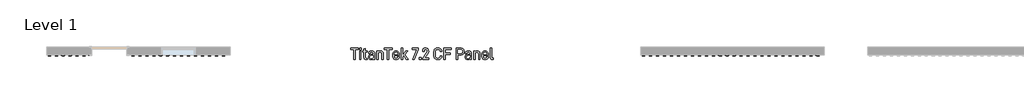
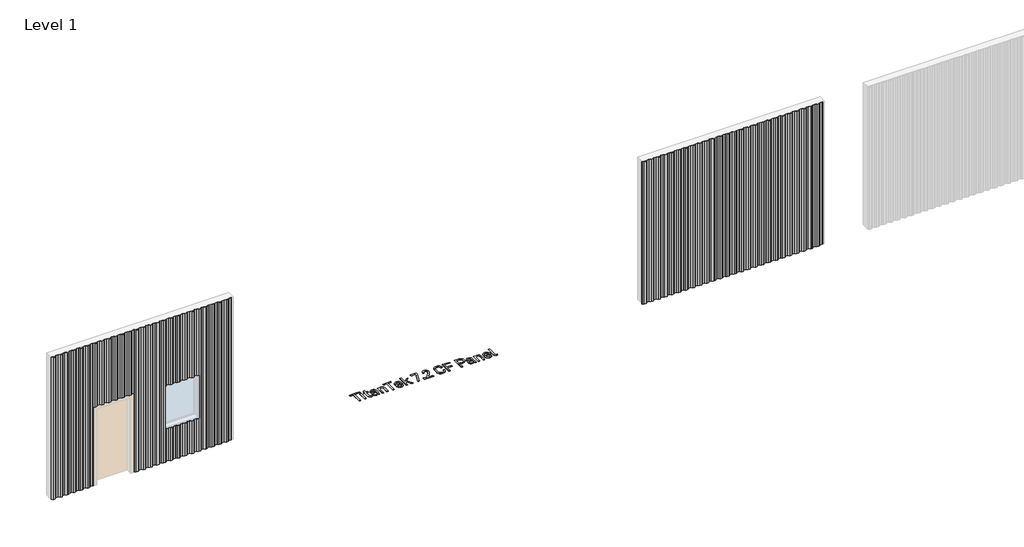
# One storey, part 10 of 33: 3 proxies.
"""IFC4 building model written with IfcOpenShell, lengths in millimetres."""

from ifc_helpers import new_model, si_unit, frame, origin, origin_with_axes, place, context, project, spatial, polyline, outline, extrude, faceted_brep, transform, mapped, element, save
from components import titantek_7_2_cf_panel_aluminum_slate_gray_eb07de06

model = new_model("IFC4")

# Units and contexts
model_context = context("Model", 3, world=origin())
ifc_project = project(units=[si_unit("LENGTHUNIT", "METRE", prefix="MILLI")], contexts=[model_context])

# Site, building, storey
site = spatial("IfcSite", under=ifc_project)
building = spatial("IfcBuilding", under=site)
storey = spatial("IfcBuildingStorey", under=building, Name="Level 1", Elevation=0.0)

# Proxies
placement = place(None, origin())
element("IfcBuildingElementProxy", 1, Name="600mm Arial 2", ObjectType="600mm Arial 2", at=placement, inside=storey, context=model_context, shape_type="SweptSolid", body=[
    extrude(outline(polyline([(-9914.9924556, 2220.4128343), (-9914.9924556, 1952.9873502), (-9954.4439015, 1952.9873502), (-9954.4439015, 2220.4128343), (-10038.8787304, 2220.4128343), (-10038.8787304, 2257.3166776), (-9830.5576267, 2257.3166776), (-9830.5576267, 2220.4128343), (-9914.9924556, 2220.4128343)])), origin_with_axes(), (0.0, 0.0, 1.0), 5.0),
    extrude(outline(polyline([(-9763.1553408, 2253.0221475), (-9763.1553408, 2205.8551051), (-9802.6067867, 2205.8551051), (-9802.6067867, 2253.0221475), (-9763.1553408, 2253.0221475)])), origin_with_axes(), (0.0, 0.0, 1.0), 5.0),
    extrude(outline(polyline([(-9764.0288046, 2178.8505176), (-9764.0288046, 1952.9873502), (-9801.733323, 1952.9873502), (-9801.733323, 2178.8505176), (-9764.0288046, 2178.8505176)])), origin_with_axes(), (0.0, 0.0, 1.0), 5.0),
    extrude(outline(polyline([(-9648.294858, 2012.601251), (-9646.8208879, 2001.5191797), (-9642.3989777, 1993.6034145), (-9635.0291273, 1988.8539554), (-9624.7113368, 1987.2708023), (-9603.2386864, 1987.2708023), (-9603.2386864, 1952.9873502), (-9629.3698101, 1952.9873502), (-9653.1535001, 1956.9543314), (-9671.3688587, 1968.855275), (-9682.6692959, 1987.3981825), (-9686.4361083, 2011.2910554), (-9686.4361083, 2147.1146681), (-9720.2828285, 2147.1146681), (-9720.2828285, 2178.8505176), (-9686.4361083, 2178.8505176), (-9686.4361083, 2226.8910237), (-9648.294858, 2244.8698192), (-9648.294858, 2178.8505176), (-9599.3808881, 2178.8505176), (-9599.3808881, 2147.1146681), (-9648.294858, 2147.1146681), (-9648.294858, 2012.601251)])), origin_with_axes(), (0.0, 0.0, 1.0), 5.0),
    extrude(outline(polyline([(-9422.8684225, 2162.1091291), (-9413.2830677, 2151.3409589), (-9406.4363858, 2138.2526505), (-9400.9590402, 2105.1156196), (-9400.9590402, 1952.9873502), (-9438.2996154, 1952.9873502), (-9438.2996154, 1969.2920069), (-9456.7151427, 1956.8451485), (-9473.7476858, 1952.0410978), (-9493.9829293, 1950.4397476), (-9526.0281305, 1954.7160806), (-9550.1029751, 1967.5450794), (-9565.2248162, 1989.3270816), (-9570.2654299, 2018.5699199), (-9565.1338304, 2046.2114081), (-9549.7390318, 2067.4111012), (-9525.063681, 2080.6222403), (-9493.1094655, 2085.0259534), (-9438.7363472, 2085.0259534), (-9438.7363472, 2105.5523515), (-9441.6296959, 2124.441005), (-9450.3097419, 2138.1616647), (-9464.2305704, 2146.1866129), (-9483.7197302, 2148.8615956), (-9502.2262434, 2146.6051476), (-9515.819523, 2139.8358036), (-9524.1720201, 2129.4816187), (-9526.9561857, 2115.4516073), (-9526.9561857, 2109.8468816), (-9563.8600291, 2109.8468816), (-9563.8600291, 2116.2522824), (-9558.4008807, 2143.2932642), (-9542.0234354, 2164.2927885), (-9516.8203668, 2177.4493362), (-9484.1564621, 2181.8348521), (-9448.6719974, 2176.9034213), (-9434.5600987, 2170.7391329), (-9422.8684225, 2162.1091291)]), holes=[polyline([(-9450.6736851, 1994.5496669), (-9441.7206817, 2009.4531421), (-9438.7363472, 2031.0167784), (-9438.7363472, 2054.9642428), (-9488.8149354, 2054.9642428), (-9507.9538, 2052.7168933), (-9521.6244175, 2045.974845), (-9529.826788, 2034.7380979), (-9532.5609115, 2019.0066518), (-9529.8540837, 2003.0522906), (-9521.7336004, 1991.6563182), (-9508.1994616, 1984.8187348), (-9489.2516673, 1982.5395404), (-9466.104878, 1985.542072), (-9450.6736851, 1994.5496669)])]), origin_with_axes(), (0.0, 0.0, 1.0), 5.0),
    extrude(outline(polyline([(-9306.6977441, 2178.8505176), (-9306.6977441, 2160.4349903), (-9288.2822167, 2173.6825238), (-9271.1222935, 2179.4692211), (-9252.2518372, 2181.3981202), (-9219.9154813, 2175.9389718), (-9206.7907787, 2169.1150363), (-9195.6950595, 2159.5615265), (-9187.0650557, 2147.9790333), (-9180.9007673, 2134.1946835), (-9175.9693365, 2100.0204144), (-9175.9693365, 1952.9873502), (-9213.673855, 1952.9873502), (-9213.673855, 2095.7258843), (-9216.6763866, 2118.1083928), (-9225.6839815, 2133.8671346), (-9240.3781893, 2143.4752358), (-9259.567096, 2146.6779363), (-9278.7378056, 2143.4752358), (-9293.3774219, 2133.8671346), (-9303.0401146, 2117.453295), (-9306.2610122, 2095.7258843), (-9306.2610122, 1952.9873502), (-9343.9655306, 1952.9873502), (-9343.9655306, 2178.8505176), (-9306.6977441, 2178.8505176)])), origin_with_axes(), (0.0, 0.0, 1.0), 5.0),
    extrude(outline(polyline([(-9025.2240514, 2220.4128343), (-9025.2240514, 1952.9873502), (-9064.6754974, 1952.9873502), (-9064.6754974, 2220.4128343), (-9149.1103263, 2220.4128343), (-9149.1103263, 2257.3166776), (-8940.7892225, 2257.3166776), (-8940.7892225, 2220.4128343), (-9025.2240514, 2220.4128343)])), origin_with_axes(), (0.0, 0.0, 1.0), 5.0),
    extrude(outline(polyline([(-8884.5235994, 2047.2486463), (-8881.1025331, 2017.8329349), (-8870.8393341, 1998.8805913), (-8854.3527058, 1988.5900965), (-8832.2613519, 1985.1599316), (-8812.990558, 1987.7257314), (-8798.8513635, 1995.4231306), (-8790.1713175, 2007.1966941), (-8787.2779689, 2022.86445), (-8787.2779689, 2028.3963871), (-8750.3741256, 2028.3963871), (-8750.3741256, 2021.9909863), (-8756.0516399, 1992.8391337), (-8763.1485329, 1980.528754), (-8773.084183, 1969.7287387), (-8799.7976159, 1955.2619954), (-8834.3722226, 1950.4397476), (-8853.3222916, 1951.9387388), (-8870.2843206, 1956.4357123), (-8885.2583098, 1963.9306682), (-8898.2442591, 1974.4236064), (-8908.7371973, 1988.0237099), (-8916.2321532, 2004.8401617), (-8920.7291267, 2024.8729617), (-8922.2281179, 2048.1221101), (-8922.2281179, 2085.8266285), (-8920.7314014, 2108.5321367), (-8916.2412518, 2128.1714231), (-8908.7576691, 2144.7444879), (-8898.2806535, 2158.2513309), (-8885.4971476, 2168.5691214), (-8870.7301511, 2175.9389718), (-8853.979664, 2180.360882), (-8835.2456864, 2181.8348521), (-8816.8438069, 2180.360882), (-8800.2161506, 2175.9389718), (-8785.3627176, 2168.5691214), (-8772.2835079, 2158.2513309), (-8761.9657174, 2144.9082623), (-8754.595867, 2128.389789), (-8750.1739568, 2108.6959111), (-8748.6999867, 2085.8266285), (-8748.6999867, 2055.8377065), (-8884.5235994, 2055.8377065), (-8884.5235994, 2047.2486463)]), holes=[polyline([(-8871.2760659, 2133.4304027), (-8881.2117161, 2115.30603), (-8884.5235994, 2086.7000923), (-8786.4045051, 2086.2633604), (-8786.4045051, 2089.6844267), (-8789.6254027, 2116.9255774), (-8799.2880954, 2134.3038665), (-8814.9012599, 2143.5844188), (-8835.2456864, 2146.6779363), (-8855.60831, 2143.3660529), (-8871.2760659, 2133.4304027)])]), origin_with_axes(), (0.0, 0.0, 1.0), 5.0),
    extrude(outline(polyline([(-8663.391694, 2020.3168474), (-8663.391694, 1952.9873502), (-8701.0962125, 1952.9873502), (-8701.0962125, 2257.3166776), (-8663.391694, 2257.3166776), (-8663.391694, 2070.8321675), (-8575.0990669, 2178.8505176), (-8528.3687564, 2178.8505176), (-8602.5403863, 2091.8680861), (-8517.6688255, 1952.9873502), (-8563.5256722, 1952.9873502), (-8627.7980463, 2062.6798392), (-8663.391694, 2020.3168474)])), origin_with_axes(), (0.0, 0.0, 1.0), 5.0),
    extrude(outline(polyline([(-8254.3195056, 2223.8339006), (-8352.001868, 1952.9873502), (-8392.3267777, 1952.9873502), (-8294.5716266, 2220.4128343), (-8413.2899076, 2220.4128343), (-8413.2899076, 2257.3166776), (-8254.3195056, 2257.3166776), (-8254.3195056, 2223.8339006)])), origin_with_axes(), (0.0, 0.0, 1.0), 5.0),
    extrude(outline(polyline([(-8175.1254592, 2001.0278564), (-8175.1254592, 1952.9873502), (-8221.4190378, 1952.9873502), (-8221.4190378, 2001.0278564), (-8175.1254592, 2001.0278564)])), origin_with_axes(), (0.0, 0.0, 1.0), 5.0),
    extrude(outline(polyline([(-8034.7161617, 2127.4617338), (-8021.1774737, 2153.2471115), (-8016.6645776, 2176.7396469), (-8016.6645776, 2183.1450477), (-8019.3577575, 2200.9418716), (-8027.4372972, 2214.0074335), (-8040.2844931, 2222.3599305), (-8056.5527554, 2225.1440962), (-8072.9302007, 2222.4691135), (-8085.2314818, 2214.4441653), (-8092.9834726, 2200.6143227), (-8095.5674695, 2181.3981202), (-8095.5674695, 2169.4607823), (-8134.9461268, 2169.4607823), (-8134.9461268, 2183.1450477), (-8129.5961613, 2214.7535171), (-8113.546265, 2240.1385572), (-8087.9428589, 2256.1884536), (-8055.6792917, 2261.5384191), (-8033.4969519, 2258.9726193), (-8014.116975, 2251.27522), (-7998.1580645, 2239.3924736), (-7986.2389238, 2223.3971687), (-7978.8690734, 2204.9998386), (-7976.4124566, 2184.0185115), (-7976.4124566, 2176.7396469), (-7978.1229898, 2158.0875565), (-7983.2545893, 2140.7092673), (-8002.9803122, 2105.9890833), (-8083.9940748, 1989.4544617), (-7976.4124566, 1989.4544617), (-7976.4124566, 1952.9873502), (-8134.9461268, 1952.9873502), (-8134.9461268, 1983.849736), (-8034.7161617, 2127.4617338)])), origin_with_axes(), (0.0, 0.0, 1.0), 5.0),
    extrude(outline(polyline([(-7808.925783, 1977.881067), (-7821.8548662, 1994.3676953), (-7831.0899256, 2014.7121217), (-7836.6309612, 2038.9143464), (-7838.4779731, 2066.9743693), (-7838.4779731, 2143.6936018), (-7836.6309612, 2171.9219484), (-7831.0899256, 2196.1924124), (-7821.8548662, 2216.5049939), (-7808.925783, 2232.8596927), (-7792.9168303, 2245.2474103), (-7774.4421621, 2254.09578), (-7753.5017786, 2259.4048019), (-7730.0956798, 2261.1744758), (-7700.7254613, 2258.2811272), (-7675.213041, 2249.6010812), (-7654.1043338, 2235.4436896), (-7637.9452544, 2216.1183042), (-7628.2825617, 2192.7713461), (-7625.0616641, 2166.4036592), (-7625.0616641, 2160.8717222), (-7664.949842, 2160.8717222), (-7664.949842, 2166.4036592), (-7669.2261749, 2190.2965321), (-7682.0551737, 2208.8394396), (-7702.8727263, 2220.4128343), (-7730.0956798, 2224.2706325), (-7759.5477855, 2219.5575677), (-7781.0841261, 2205.4183733), (-7788.7747014, 2194.4136399), (-7794.2679695, 2180.251699), (-7798.662584, 2142.4561948), (-7798.662584, 2065.3002304), (-7794.3498567, 2030.9712854), (-7781.411675, 2006.4506105), (-7771.7080386, 1997.8683742), (-7759.8480387, 1991.7382055), (-7729.6589479, 1986.8340705), (-7702.3268115, 1990.6918687), (-7682.0551737, 2002.2652633), (-7669.2261749, 2020.4806219), (-7664.949842, 2044.2643119), (-7664.949842, 2050.3057694), (-7625.9351279, 2050.3057694), (-7625.9351279, 2044.2643119), (-7627.7002526, 2023.4103649), (-7632.9956265, 2004.9584432), (-7641.8212498, 1988.9085469), (-7654.1771224, 1975.2606758), (-7669.5400759, 1964.0193793), (-7687.3141533, 1955.9898819), (-7707.4993546, 1951.1721834), (-7730.0956798, 1949.5662839), (-7753.5017786, 1951.3359578), (-7774.4421621, 1956.6449797), (-7792.9168303, 1965.4933494), (-7808.925783, 1977.881067)])), origin_with_axes(), (0.0, 0.0, 1.0), 5.0),
    extrude(outline(polyline([(-7531.7466205, 2125.2780744), (-7404.8760111, 2125.2780744), (-7404.8760111, 2088.4470198), (-7531.7466205, 2088.4470198), (-7531.7466205, 1952.9873502), (-7571.6347983, 1952.9873502), (-7571.6347983, 2257.3166776), (-7383.4761493, 2257.3166776), (-7383.4761493, 2220.4128343), (-7531.7466205, 2220.4128343), (-7531.7466205, 2125.2780744)])), origin_with_axes(), (0.0, 0.0, 1.0), 5.0),
    extrude(outline(polyline([(-7063.7884177, 2233.2964245), (-7052.3560511, 2219.8396237), (-7044.1900749, 2203.926206), (-7039.2904892, 2185.5561716), (-7037.6572939, 2164.7295204), (-7039.3177849, 2145.044741), (-7044.2992578, 2127.5527196), (-7052.6017127, 2112.2534562), (-7064.2251496, 2099.1469507), (-7078.2824568, 2088.6380899), (-7094.7599864, 2081.1317609), (-7113.6577386, 2076.6279634), (-7134.9757131, 2075.1266976), (-7205.653488, 2075.1266976), (-7205.653488, 1952.9873502), (-7245.5416658, 1952.9873502), (-7245.5416658, 2257.3166776), (-7134.9757131, 2257.3166776), (-7113.7942173, 2255.8154118), (-7094.8691694, 2251.3116143), (-7078.2005696, 2243.8052853), (-7063.7884177, 2233.2964245)]), holes=[polyline([(-7092.5399327, 2125.2780744), (-7081.294087, 2141.5827311), (-7077.5454717, 2164.7295204), (-7081.40327, 2189.3502798), (-7092.9766646, 2206.7285689), (-7112.0472898, 2216.9917679), (-7137.5233157, 2220.4128343), (-7205.653488, 2220.4128343), (-7205.653488, 2112.0305409), (-7137.5233157, 2112.0305409), (-7111.283009, 2115.3424243), (-7092.5399327, 2125.2780744)])]), origin_with_axes(), (0.0, 0.0, 1.0), 5.0),
    extrude(outline(polyline([(-6865.3665697, 2162.1091291), (-6855.781215, 2151.3409589), (-6848.934533, 2138.2526505), (-6843.4571874, 2105.1156196), (-6843.4571874, 1952.9873502), (-6880.7977626, 1952.9873502), (-6880.7977626, 1969.2920069), (-6899.21329, 1956.8451485), (-6916.245833, 1952.0410978), (-6936.4810765, 1950.4397476), (-6968.5262778, 1954.7160806), (-6992.6011223, 1967.5450794), (-7007.7229634, 1989.3270816), (-7012.7635771, 2018.5699199), (-7007.6319776, 2046.2114081), (-6992.2371791, 2067.4111012), (-6967.5618282, 2080.6222403), (-6935.6076128, 2085.0259534), (-6881.2344945, 2085.0259534), (-6881.2344945, 2105.5523515), (-6884.1278431, 2124.441005), (-6892.8078891, 2138.1616647), (-6906.7287176, 2146.1866129), (-6926.2178775, 2148.8615956), (-6944.7243906, 2146.6051476), (-6958.3176702, 2139.8358036), (-6966.6701673, 2129.4816187), (-6969.454333, 2115.4516073), (-6969.454333, 2109.8468816), (-7006.3581763, 2109.8468816), (-7006.3581763, 2116.2522824), (-7000.8990279, 2143.2932642), (-6984.5215826, 2164.2927885), (-6959.3185141, 2177.4493362), (-6926.6546094, 2181.8348521), (-6891.1701446, 2176.9034213), (-6877.0582459, 2170.7391329), (-6865.3665697, 2162.1091291)]), holes=[polyline([(-6893.1718324, 1994.5496669), (-6884.218829, 2009.4531421), (-6881.2344945, 2031.0167784), (-6881.2344945, 2054.9642428), (-6931.3130827, 2054.9642428), (-6950.4519472, 2052.7168933), (-6964.1225647, 2045.974845), (-6972.3249352, 2034.7380979), (-6975.0590587, 2019.0066518), (-6972.3522309, 2003.0522906), (-6964.2317477, 1991.6563182), (-6950.6976089, 1984.8187348), (-6931.7498145, 1982.5395404), (-6908.6030252, 1985.542072), (-6893.1718324, 1994.5496669)])]), origin_with_axes(), (0.0, 0.0, 1.0), 5.0),
    extrude(outline(polyline([(-6749.1958913, 2178.8505176), (-6749.1958913, 2160.4349903), (-6730.780364, 2173.6825238), (-6713.6204408, 2179.4692211), (-6694.7499844, 2181.3981202), (-6662.4136286, 2175.9389718), (-6649.2889259, 2169.1150363), (-6638.1932067, 2159.5615265), (-6629.5632029, 2147.9790333), (-6623.3989145, 2134.1946835), (-6618.4674838, 2100.0204144), (-6618.4674838, 1952.9873502), (-6656.1720022, 1952.9873502), (-6656.1720022, 2095.7258843), (-6659.1745338, 2118.1083928), (-6668.1821287, 2133.8671346), (-6682.8763366, 2143.4752358), (-6702.0652433, 2146.6779363), (-6721.2359528, 2143.4752358), (-6735.8755692, 2133.8671346), (-6745.5382619, 2117.453295), (-6748.7591594, 2095.7258843), (-6748.7591594, 1952.9873502), (-6786.4636779, 1952.9873502), (-6786.4636779, 2178.8505176), (-6749.1958913, 2178.8505176)])), origin_with_axes(), (0.0, 0.0, 1.0), 5.0),
    extrude(outline(polyline([(-6531.9945728, 2047.2486463), (-6528.5735064, 2017.8329349), (-6518.3103074, 1998.8805913), (-6501.8236791, 1988.5900965), (-6479.7323252, 1985.1599316), (-6460.4615313, 1987.7257314), (-6446.3223369, 1995.4231306), (-6437.6422909, 2007.1966941), (-6434.7489422, 2022.86445), (-6434.7489422, 2028.3963871), (-6397.8450989, 2028.3963871), (-6397.8450989, 2021.9909863), (-6403.5226132, 1992.8391337), (-6410.6195062, 1980.528754), (-6420.5551563, 1969.7287387), (-6447.2685893, 1955.2619954), (-6481.8431959, 1950.4397476), (-6500.7932649, 1951.9387388), (-6517.755294, 1956.4357123), (-6532.7292832, 1963.9306682), (-6545.7152325, 1974.4236064), (-6556.2081707, 1988.0237099), (-6563.7031265, 2004.8401617), (-6568.2001, 2024.8729617), (-6569.6990912, 2048.1221101), (-6569.6990912, 2085.8266285), (-6568.2023747, 2108.5321367), (-6563.7122251, 2128.1714231), (-6556.2286425, 2144.7444879), (-6545.7516268, 2158.2513309), (-6532.9681209, 2168.5691214), (-6518.2011244, 2175.9389718), (-6501.4506373, 2180.360882), (-6482.7166597, 2181.8348521), (-6464.3147802, 2180.360882), (-6447.687124, 2175.9389718), (-6432.833691, 2168.5691214), (-6419.7544812, 2158.2513309), (-6409.4366907, 2144.9082623), (-6402.0668403, 2128.389789), (-6397.6449301, 2108.6959111), (-6396.17096, 2085.8266285), (-6396.17096, 2055.8377065), (-6531.9945728, 2055.8377065), (-6531.9945728, 2047.2486463)]), holes=[polyline([(-6518.7470393, 2133.4304027), (-6528.6826894, 2115.30603), (-6531.9945728, 2086.7000923), (-6433.8754785, 2086.2633604), (-6433.8754785, 2089.6844267), (-6437.096376, 2116.9255774), (-6446.7590687, 2134.3038665), (-6462.3722332, 2143.5844188), (-6482.7166597, 2146.6779363), (-6503.0792833, 2143.3660529), (-6518.7470393, 2133.4304027)])]), origin_with_axes(), (0.0, 0.0, 1.0), 5.0),
    extrude(outline(polyline([(-6333.5727248, 1968.855275), (-6344.8185705, 1988.362632), (-6348.5671858, 2014.2753899), (-6348.5671858, 2257.3166776), (-6310.8626673, 2257.3166776), (-6310.8626673, 2016.0223174), (-6309.4796831, 2002.6110094), (-6305.3307303, 1994.112935), (-6298.3430203, 1989.6364333), (-6287.715878, 1988.1442661), (-6265.8792843, 1988.1442661), (-6265.8792843, 1952.9873502), (-6290.7002125, 1952.9873502), (-6315.5757322, 1956.9543314), (-6333.5727248, 1968.855275)])), origin_with_axes(), (0.0, 0.0, 1.0), 5.0),
])
titantek_7_2_cf_panel_aluminum_slate_gray_shape = titantek_7_2_cf_panel_aluminum_slate_gray_eb07de06(model_context)
element("IfcBuildingElementProxy", 2, Name="TitanTek 7.2 CF Panel : Aluminum Slate Gray", ObjectType="TitanTek 7.2 CF Panel : Aluminum Slate Gray", at=placement, inside=storey, context=model_context, shape_type="MappedRepresentation", body=[
    mapped(titantek_7_2_cf_panel_aluminum_slate_gray_shape, transform((-2360.5897817, 2078.6095025, 0.0), x_axis=(1.0, 0.0, 0.0), y_axis=(0.0, 1.0, 0.0), z_axis=(0.0, 0.0, 1.0))),
])
element("IfcBuildingElementProxy", 3, Name="TitanTek 7.2 CF Panel : Steel Regal Red", ObjectType="TitanTek 7.2 CF Panel : Steel Regal Red", at=placement, inside=storey, context=model_context, shape_type="SolidModel", body=[
    extrude(outline(polyline([(-17709.0564045, 2078.6095025), (-17701.5857463, 2072.340876), (-17703.129316, 2072.340876), (-17709.4175312, 2077.617315), (-17760.6895339, 2077.617315), (-17800.7638066, 2043.708315), (-17854.7011195, 2043.708315), (-17894.938795, 2077.617315), (-17945.013031, 2077.617315), (-17986.259889, 2042.7161275), (-18037.6674853, 2042.7161275), (-18079.2611009, 2077.617315), (-18077.7175312, 2077.617315), (-18037.3063586, 2043.708315), (-17986.623335, 2043.708315), (-17945.3764771, 2078.6095025), (-17894.5764771, 2078.6095025), (-17854.3388016, 2044.7005025), (-17801.1272527, 2044.7005025), (-17761.05298, 2078.6095025), (-17709.0564045, 2078.6095025)])), origin_with_axes(), (0.0, 0.0, 1.0), 4000.0),
    extrude(outline(polyline([(-17340.7564045, 2078.6095025), (-17333.2857463, 2072.340876), (-17334.829316, 2072.340876), (-17341.1175312, 2077.617315), (-17392.3895339, 2077.617315), (-17432.4638066, 2043.708315), (-17486.4011195, 2043.708315), (-17526.638795, 2077.617315), (-17576.713031, 2077.617315), (-17617.959889, 2042.7161275), (-17669.3674853, 2042.7161275), (-17710.9611009, 2077.617315), (-17709.4175312, 2077.617315), (-17669.0063586, 2043.708315), (-17618.323335, 2043.708315), (-17577.0764771, 2078.6095025), (-17526.2764771, 2078.6095025), (-17486.0388016, 2044.7005025), (-17432.8272527, 2044.7005025), (-17392.75298, 2078.6095025), (-17340.7564045, 2078.6095025)])), origin_with_axes(), (0.0, 0.0, 1.0), 4000.0),
    extrude(outline(polyline([(-16972.4564045, 2078.6095025), (-16964.9857463, 2072.340876), (-16966.529316, 2072.340876), (-16972.8175312, 2077.617315), (-17024.0895339, 2077.617315), (-17064.1638066, 2043.708315), (-17118.1011195, 2043.708315), (-17158.338795, 2077.617315), (-17208.413031, 2077.617315), (-17249.659889, 2042.7161275), (-17301.0674853, 2042.7161275), (-17342.6611009, 2077.617315), (-17341.1175312, 2077.617315), (-17300.7063586, 2043.708315), (-17250.023335, 2043.708315), (-17208.7764771, 2078.6095025), (-17157.9764771, 2078.6095025), (-17117.7388016, 2044.7005025), (-17064.5272527, 2044.7005025), (-17024.45298, 2078.6095025), (-16972.4564045, 2078.6095025)])), origin_with_axes(), (0.0, 0.0, 1.0), 4000.0),
    faceted_brep([(-16932.7674853, 2042.7161275, 4000.0), (-16974.3611009, 2077.617315, 4000.0), (-16974.3611009, 2077.617315, 0.0), (-16953.5272757, 2060.1356599, 0.0), (-16953.5272757, 2060.1356599, 2210.0), (-16932.7674853, 2042.7161275, 2210.0), (-16881.359889, 2042.7161275, 4000.0), (-16881.359889, 2042.7161275, 2210.0), (-16840.113031, 2077.617315, 4000.0), (-16840.113031, 2077.617315, 2210.0), (-16790.038795, 2077.617315, 4000.0), (-16790.038795, 2077.617315, 2210.0), (-16749.8011195, 2043.708315, 4000.0), (-16749.8011195, 2043.708315, 2210.0), (-16695.8638066, 2043.708315, 4000.0), (-16695.8638066, 2043.708315, 2210.0), (-16655.7895339, 2077.617315, 4000.0), (-16655.7895339, 2077.617315, 2210.0), (-16604.5175312, 2077.617315, 4000.0), (-16604.5175312, 2077.617315, 2210.0), (-16596.6857463, 2072.340876, 4000.0), (-16598.229316, 2072.340876, 4000.0), (-16598.229316, 2072.340876, 2210.0), (-16596.6857463, 2072.340876, 2210.0), (-16656.15298, 2078.6095025, 4000.0), (-16604.1564045, 2078.6095025, 4000.0), (-16604.1564045, 2078.6095025, 2210.0), (-16656.15298, 2078.6095025, 2210.0), (-16696.2272527, 2044.7005025, 4000.0), (-16696.2272527, 2044.7005025, 2210.0), (-16749.4388016, 2044.7005025, 4000.0), (-16749.4388016, 2044.7005025, 2210.0), (-16789.6764771, 2078.6095025, 4000.0), (-16840.4764771, 2078.6095025, 4000.0), (-16881.723335, 2043.708315, 4000.0), (-16932.4063586, 2043.708315, 4000.0), (-16972.8175312, 2077.617315, 4000.0), (-16972.8175312, 2077.617315, 0.0), (-16953.5272757, 2061.4308687, 0.0), (-16789.6764771, 2078.6095025, 2210.0), (-16840.4764771, 2078.6095025, 2210.0), (-16881.723335, 2043.708315, 2210.0), (-16932.4063586, 2043.708315, 2210.0), (-16953.5272757, 2061.4308687, 2210.0)], [[[0, 1, 2, 3, 4, 5]], [[6, 0, 5, 7]], [[8, 6, 7, 9]], [[10, 8, 9, 11]], [[12, 10, 11, 13]], [[14, 12, 13, 15]], [[16, 14, 15, 17]], [[18, 16, 17, 19]], [[20, 21, 22, 23]], [[24, 25, 26, 27]], [[28, 24, 27, 29]], [[30, 28, 29, 31]], [[25, 24, 28, 30, 32, 33, 34, 35, 36, 1, 0, 6, 8, 10, 12, 14, 16, 18, 21, 20]], [[2, 37, 38, 3]], [[32, 30, 31, 39]], [[33, 32, 39, 40]], [[34, 33, 40, 41]], [[35, 34, 41, 42]], [[36, 35, 42, 43, 38, 37]], [[21, 18, 19, 22]], [[25, 20, 23, 26]], [[1, 36, 37, 2]], [[4, 43, 42, 41, 40, 39, 31, 29, 27, 26, 23, 22, 19, 17, 15, 13, 11, 9, 7, 5]], [[43, 4, 3, 38]]]),
    extrude(outline(polyline([(-16564.4674853, 2042.7161275), (-16606.0611009, 2077.617315), (-16604.5175312, 2077.617315), (-16564.1063586, 2043.708315), (-16513.423335, 2043.708315), (-16472.1764771, 2078.6095025), (-16421.3764771, 2078.6095025), (-16381.1388016, 2044.7005025), (-16327.9272527, 2044.7005025), (-16287.85298, 2078.6095025), (-16235.8564045, 2078.6095025), (-16228.3857463, 2072.340876), (-16229.929316, 2072.340876), (-16236.2175312, 2077.617315), (-16287.4895339, 2077.617315), (-16327.5638066, 2043.708315), (-16381.5011195, 2043.708315), (-16421.738795, 2077.617315), (-16471.813031, 2077.617315), (-16513.059889, 2042.7161275), (-16564.4674853, 2042.7161275)])), frame((0.0, 0.0, 2210.0), z_axis=(0.0, 0.0, 1.0), x_axis=(1.0, 0.0, 0.0)), (0.0, 0.0, 1.0), 1790.0),
    faceted_brep([(-16196.1674853, 2042.7161275, 4000.0), (-16237.7611009, 2077.617315, 4000.0), (-16237.7611009, 2077.617315, 2210.0), (-16196.1674853, 2042.7161275, 2210.0), (-16144.759889, 2042.7161275, 4000.0), (-16144.759889, 2042.7161275, 2210.0), (-16103.513031, 2077.617315, 4000.0), (-16103.513031, 2077.617315, 2210.0), (-16053.438795, 2077.617315, 4000.0), (-16053.438795, 2077.617315, 2210.0), (-16013.2011195, 2043.708315, 4000.0), (-16013.2011195, 2043.708315, 2210.0), (-15959.2638066, 2043.708315, 4000.0), (-15959.2638066, 2043.708315, 2210.0), (-15919.1895339, 2077.617315, 4000.0), (-15919.1895339, 2077.617315, 2210.0), (-15867.9175312, 2077.617315, 4000.0), (-15886.5272757, 2077.617315, 2210.0), (-15886.5272757, 2077.617315, 0.0), (-15867.9175312, 2077.617315, 0.0), (-15860.0857463, 2072.340876, 4000.0), (-15861.629316, 2072.340876, 4000.0), (-15861.629316, 2072.340876, 0.0), (-15860.0857463, 2072.340876, 0.0), (-15919.55298, 2078.6095025, 4000.0), (-15867.5564045, 2078.6095025, 4000.0), (-15867.5564045, 2078.6095025, 0.0), (-15886.5272757, 2078.6095025, 0.0), (-15886.5272757, 2078.6095025, 2210.0), (-15919.55298, 2078.6095025, 2210.0), (-15959.6272527, 2044.7005025, 4000.0), (-15959.6272527, 2044.7005025, 2210.0), (-16012.8388016, 2044.7005025, 4000.0), (-16012.8388016, 2044.7005025, 2210.0), (-16053.0764771, 2078.6095025, 4000.0), (-16103.8764771, 2078.6095025, 4000.0), (-16145.123335, 2043.708315, 4000.0), (-16195.8063586, 2043.708315, 4000.0), (-16236.2175312, 2077.617315, 4000.0), (-16053.0764771, 2078.6095025, 2210.0), (-16103.8764771, 2078.6095025, 2210.0), (-16145.123335, 2043.708315, 2210.0), (-16195.8063586, 2043.708315, 2210.0), (-16236.2175312, 2077.617315, 2210.0)], [[[0, 1, 2, 3]], [[4, 0, 3, 5]], [[6, 4, 5, 7]], [[8, 6, 7, 9]], [[10, 8, 9, 11]], [[12, 10, 11, 13]], [[14, 12, 13, 15]], [[16, 14, 15, 17, 18, 19]], [[20, 21, 22, 23]], [[24, 25, 26, 27, 28, 29]], [[30, 24, 29, 31]], [[32, 30, 31, 33]], [[25, 24, 30, 32, 34, 35, 36, 37, 38, 1, 0, 4, 6, 8, 10, 12, 14, 16, 21, 20]], [[26, 23, 22, 19, 18, 27]], [[34, 32, 33, 39]], [[35, 34, 39, 40]], [[36, 35, 40, 41]], [[37, 36, 41, 42]], [[38, 37, 42, 43]], [[21, 16, 19, 22]], [[25, 20, 23, 26]], [[1, 38, 43, 2]], [[17, 28, 27, 18]], [[28, 17, 15, 13, 11, 9, 7, 5, 3, 2, 43, 42, 41, 40, 39, 33, 31, 29]]]),
    extrude(outline(polyline([(-15499.2564045, 2078.6095025), (-15491.7857463, 2072.340876), (-15493.329316, 2072.340876), (-15499.6175312, 2077.617315), (-15550.8895339, 2077.617315), (-15590.9638066, 2043.708315), (-15644.9011195, 2043.708315), (-15685.138795, 2077.617315), (-15735.213031, 2077.617315), (-15776.459889, 2042.7161275), (-15827.8674853, 2042.7161275), (-15869.4611009, 2077.617315), (-15867.9175312, 2077.617315), (-15827.5063586, 2043.708315), (-15776.823335, 2043.708315), (-15735.5764771, 2078.6095025), (-15684.7764771, 2078.6095025), (-15644.5388016, 2044.7005025), (-15591.3272527, 2044.7005025), (-15551.25298, 2078.6095025), (-15499.2564045, 2078.6095025)])), origin_with_axes(), (0.0, 0.0, 1.0), 4000.0),
    extrude(outline(polyline([(-15130.9564045, 2078.6095025), (-15123.4857463, 2072.340876), (-15125.029316, 2072.340876), (-15131.3175312, 2077.617315), (-15182.5895339, 2077.617315), (-15222.6638066, 2043.708315), (-15276.6011195, 2043.708315), (-15316.838795, 2077.617315), (-15366.913031, 2077.617315), (-15408.159889, 2042.7161275), (-15459.5674853, 2042.7161275), (-15501.1611009, 2077.617315), (-15499.6175312, 2077.617315), (-15459.2063586, 2043.708315), (-15408.523335, 2043.708315), (-15367.2764771, 2078.6095025), (-15316.4764771, 2078.6095025), (-15276.2388016, 2044.7005025), (-15223.0272527, 2044.7005025), (-15182.95298, 2078.6095025), (-15130.9564045, 2078.6095025)])), origin_with_axes(), (0.0, 0.0, 1.0), 4000.0),
    faceted_brep([(-15091.2674853, 2042.7161275, 4000.0), (-15132.8611009, 2077.617315, 4000.0), (-15132.8611009, 2077.617315, 0.0), (-15091.2674853, 2042.7161275, 0.0), (-15039.859889, 2042.7161275, 4000.0), (-15039.859889, 2042.7161275, 0.0), (-15039.859889, 2042.7161275, 915.4292148), (-15052.5272757, 2042.7161275, 915.4292148), (-15052.5272757, 2042.7161275, 2135.0), (-15039.859889, 2042.7161275, 2135.0), (-14998.613031, 2077.617315, 4000.0), (-14998.613031, 2077.617315, 2135.0), (-14998.613031, 2077.617315, 0.0), (-14998.613031, 2077.617315, 915.4292148), (-14948.538795, 2077.617315, 4000.0), (-14948.538795, 2077.617315, 2135.0), (-14948.538795, 2077.617315, 0.0), (-14948.538795, 2077.617315, 915.4292148), (-14908.3011195, 2043.708315, 4000.0), (-14908.3011195, 2043.708315, 2135.0), (-14908.3011195, 2043.708315, 0.0), (-14908.3011195, 2043.708315, 915.4292148), (-14854.3638066, 2043.708315, 4000.0), (-14854.3638066, 2043.708315, 2135.0), (-14854.3638066, 2043.708315, 0.0), (-14854.3638066, 2043.708315, 915.4292148), (-14814.2895339, 2077.617315, 4000.0), (-14814.2895339, 2077.617315, 2135.0), (-14814.2895339, 2077.617315, 0.0), (-14814.2895339, 2077.617315, 915.4292148), (-14763.0175312, 2077.617315, 4000.0), (-14763.0175312, 2077.617315, 2135.0), (-14763.0175312, 2077.617315, 0.0), (-14763.0175312, 2077.617315, 915.4292148), (-14755.1857463, 2072.340876, 4000.0), (-14756.729316, 2072.340876, 4000.0), (-14756.729316, 2072.340876, 2135.0), (-14755.1857463, 2072.340876, 2135.0), (-14756.729316, 2072.340876, 0.0), (-14755.1857463, 2072.340876, 0.0), (-14755.1857463, 2072.340876, 915.4292148), (-14756.729316, 2072.340876, 915.4292148), (-14814.65298, 2078.6095025, 4000.0), (-14762.6564045, 2078.6095025, 4000.0), (-14762.6564045, 2078.6095025, 2135.0), (-14814.65298, 2078.6095025, 2135.0), (-14762.6564045, 2078.6095025, 0.0), (-14814.65298, 2078.6095025, 0.0), (-14814.65298, 2078.6095025, 915.4292148), (-14762.6564045, 2078.6095025, 915.4292148), (-14854.7272527, 2044.7005025, 4000.0), (-14854.7272527, 2044.7005025, 2135.0), (-14854.7272527, 2044.7005025, 0.0), (-14854.7272527, 2044.7005025, 915.4292148), (-14907.9388016, 2044.7005025, 4000.0), (-14907.9388016, 2044.7005025, 2135.0), (-14907.9388016, 2044.7005025, 0.0), (-14907.9388016, 2044.7005025, 915.4292148), (-14948.1764771, 2078.6095025, 4000.0), (-14998.9764771, 2078.6095025, 4000.0), (-15040.223335, 2043.708315, 4000.0), (-15090.9063586, 2043.708315, 4000.0), (-15131.3175312, 2077.617315, 4000.0), (-15131.3175312, 2077.617315, 0.0), (-15090.9063586, 2043.708315, 0.0), (-15040.223335, 2043.708315, 0.0), (-14998.9764771, 2078.6095025, 0.0), (-14948.1764771, 2078.6095025, 0.0), (-14948.1764771, 2078.6095025, 2135.0), (-14948.1764771, 2078.6095025, 915.4292148), (-14998.9764771, 2078.6095025, 915.4292148), (-14998.9764771, 2078.6095025, 2135.0), (-15040.223335, 2043.708315, 2135.0), (-15040.223335, 2043.708315, 915.4292148), (-15052.5272757, 2043.708315, 2135.0), (-15052.5272757, 2043.708315, 915.4292148)], [[[0, 1, 2, 3]], [[4, 0, 3, 5, 6, 7, 8, 9]], [[10, 4, 9, 11]], [[5, 12, 13, 6]], [[14, 10, 11, 15]], [[12, 16, 17, 13]], [[18, 14, 15, 19]], [[16, 20, 21, 17]], [[22, 18, 19, 23]], [[20, 24, 25, 21]], [[26, 22, 23, 27]], [[24, 28, 29, 25]], [[30, 26, 27, 31]], [[28, 32, 33, 29]], [[34, 35, 36, 37]], [[38, 39, 40, 41]], [[42, 43, 44, 45]], [[46, 47, 48, 49]], [[50, 42, 45, 51]], [[47, 52, 53, 48]], [[54, 50, 51, 55]], [[52, 56, 57, 53]], [[43, 42, 50, 54, 58, 59, 60, 61, 62, 1, 0, 4, 10, 14, 18, 22, 26, 30, 35, 34]], [[46, 39, 38, 32, 28, 24, 20, 16, 12, 5, 3, 2, 63, 64, 65, 66, 67, 56, 52, 47]], [[58, 54, 55, 68]], [[56, 67, 69, 57]], [[67, 66, 70, 69]], [[59, 58, 68, 71]], [[60, 59, 71, 72]], [[66, 65, 73, 70]], [[61, 60, 72, 74, 75, 73, 65, 64]], [[62, 61, 64, 63]], [[35, 30, 31, 36]], [[32, 38, 41, 33]], [[43, 34, 37, 44]], [[39, 46, 49, 40]], [[1, 62, 63, 2]], [[8, 74, 72, 71, 68, 55, 51, 45, 44, 37, 36, 31, 27, 23, 19, 15, 11, 9]], [[74, 8, 7, 75]], [[75, 7, 6, 13, 17, 21, 25, 29, 33, 41, 40, 49, 48, 53, 57, 69, 70, 73]]]),
    extrude(outline(polyline([(-14722.9674853, 2042.7161275), (-14764.5611009, 2077.617315), (-14763.0175312, 2077.617315), (-14722.6063586, 2043.708315), (-14671.923335, 2043.708315), (-14630.6764771, 2078.6095025), (-14579.8764771, 2078.6095025), (-14539.6388016, 2044.7005025), (-14486.4272527, 2044.7005025), (-14446.35298, 2078.6095025), (-14394.3564045, 2078.6095025), (-14386.8857463, 2072.340876), (-14388.429316, 2072.340876), (-14394.7175312, 2077.617315), (-14445.9895339, 2077.617315), (-14486.0638066, 2043.708315), (-14540.0011195, 2043.708315), (-14580.238795, 2077.617315), (-14630.313031, 2077.617315), (-14671.559889, 2042.7161275), (-14722.9674853, 2042.7161275)])), frame((0.0, 0.0, 2135.0), z_axis=(0.0, 0.0, 1.0), x_axis=(1.0, 0.0, 0.0)), (0.0, 0.0, 1.0), 1865.0),
    extrude(outline(polyline([(-14394.3564045, 2078.6095025), (-14386.8857463, 2072.340876), (-14388.429316, 2072.340876), (-14394.7175312, 2077.617315), (-14445.9895339, 2077.617315), (-14486.0638066, 2043.708315), (-14540.0011195, 2043.708315), (-14580.238795, 2077.617315), (-14630.313031, 2077.617315), (-14671.559889, 2042.7161275), (-14722.9674853, 2042.7161275), (-14764.5611009, 2077.617315), (-14763.0175312, 2077.617315), (-14722.6063586, 2043.708315), (-14671.923335, 2043.708315), (-14630.6764771, 2078.6095025), (-14579.8764771, 2078.6095025), (-14539.6388016, 2044.7005025), (-14486.4272527, 2044.7005025), (-14446.35298, 2078.6095025), (-14394.3564045, 2078.6095025)])), origin_with_axes(), (0.0, 0.0, 1.0), 915.4292148),
    faceted_brep([(-14354.6674853, 2042.7161275, 4000.0), (-14396.2611009, 2077.617315, 4000.0), (-14396.2611009, 2077.617315, 2135.0), (-14354.6674853, 2042.7161275, 2135.0), (-14396.2611009, 2077.617315, 0.0), (-14354.6674853, 2042.7161275, 0.0), (-14354.6674853, 2042.7161275, 915.4292148), (-14396.2611009, 2077.617315, 915.4292148), (-14303.259889, 2042.7161275, 4000.0), (-14303.259889, 2042.7161275, 2135.0), (-14303.259889, 2042.7161275, 0.0), (-14303.259889, 2042.7161275, 915.4292148), (-14262.013031, 2077.617315, 4000.0), (-14262.013031, 2077.617315, 2135.0), (-14262.013031, 2077.617315, 0.0), (-14262.013031, 2077.617315, 915.4292148), (-14211.938795, 2077.617315, 4000.0), (-14211.938795, 2077.617315, 2135.0), (-14211.938795, 2077.617315, 0.0), (-14211.938795, 2077.617315, 915.4292148), (-14171.7011195, 2043.708315, 4000.0), (-14171.7011195, 2043.708315, 2135.0), (-14171.7011195, 2043.708315, 0.0), (-14171.7011195, 2043.708315, 915.4292148), (-14117.7638066, 2043.708315, 4000.0), (-14137.5272757, 2043.708315, 2135.0), (-14137.5272757, 2043.708315, 915.4292148), (-14117.7638066, 2043.708315, 0.0), (-14077.6895339, 2077.617315, 4000.0), (-14077.6895339, 2077.617315, 0.0), (-14026.4175312, 2077.617315, 4000.0), (-14026.4175312, 2077.617315, 0.0), (-14018.5857463, 2072.340876, 4000.0), (-14020.129316, 2072.340876, 4000.0), (-14020.129316, 2072.340876, 0.0), (-14018.5857463, 2072.340876, 0.0), (-14078.05298, 2078.6095025, 4000.0), (-14026.0564045, 2078.6095025, 4000.0), (-14026.0564045, 2078.6095025, 0.0), (-14078.05298, 2078.6095025, 0.0), (-14118.1272527, 2044.7005025, 4000.0), (-14118.1272527, 2044.7005025, 0.0), (-14171.3388016, 2044.7005025, 4000.0), (-14171.3388016, 2044.7005025, 0.0), (-14171.3388016, 2044.7005025, 915.4292148), (-14137.5272757, 2044.7005025, 915.4292148), (-14137.5272757, 2044.7005025, 2135.0), (-14171.3388016, 2044.7005025, 2135.0), (-14211.5764771, 2078.6095025, 4000.0), (-14262.3764771, 2078.6095025, 4000.0), (-14303.623335, 2043.708315, 4000.0), (-14354.3063586, 2043.708315, 4000.0), (-14394.7175312, 2077.617315, 4000.0), (-14394.7175312, 2077.617315, 0.0), (-14354.3063586, 2043.708315, 0.0), (-14303.623335, 2043.708315, 0.0), (-14262.3764771, 2078.6095025, 0.0), (-14211.5764771, 2078.6095025, 0.0), (-14211.5764771, 2078.6095025, 2135.0), (-14211.5764771, 2078.6095025, 915.4292148), (-14262.3764771, 2078.6095025, 915.4292148), (-14262.3764771, 2078.6095025, 2135.0), (-14303.623335, 2043.708315, 2135.0), (-14303.623335, 2043.708315, 915.4292148), (-14354.3063586, 2043.708315, 2135.0), (-14354.3063586, 2043.708315, 915.4292148), (-14394.7175312, 2077.617315, 2135.0), (-14394.7175312, 2077.617315, 915.4292148)], [[[0, 1, 2, 3]], [[4, 5, 6, 7]], [[8, 0, 3, 9]], [[5, 10, 11, 6]], [[12, 8, 9, 13]], [[10, 14, 15, 11]], [[16, 12, 13, 17]], [[14, 18, 19, 15]], [[20, 16, 17, 21]], [[18, 22, 23, 19]], [[24, 20, 21, 25, 26, 23, 22, 27]], [[28, 24, 27, 29]], [[30, 28, 29, 31]], [[32, 33, 34, 35]], [[36, 37, 38, 39]], [[40, 36, 39, 41]], [[42, 40, 41, 43, 44, 45, 46, 47]], [[37, 36, 40, 42, 48, 49, 50, 51, 52, 1, 0, 8, 12, 16, 20, 24, 28, 30, 33, 32]], [[38, 35, 34, 31, 29, 27, 22, 18, 14, 10, 5, 4, 53, 54, 55, 56, 57, 43, 41, 39]], [[48, 42, 47, 58]], [[43, 57, 59, 44]], [[57, 56, 60, 59]], [[49, 48, 58, 61]], [[50, 49, 61, 62]], [[56, 55, 63, 60]], [[51, 50, 62, 64]], [[55, 54, 65, 63]], [[52, 51, 64, 66]], [[54, 53, 67, 65]], [[33, 30, 31, 34]], [[37, 32, 35, 38]], [[1, 52, 66, 2]], [[53, 4, 7, 67]], [[45, 26, 25, 46]], [[46, 25, 21, 17, 13, 9, 3, 2, 66, 64, 62, 61, 58, 47]], [[26, 45, 44, 59, 60, 63, 65, 67, 7, 6, 11, 15, 19, 23]]]),
    extrude(outline(polyline([(-13657.7564045, 2078.6095025), (-13650.2857463, 2072.340876), (-13651.829316, 2072.340876), (-13658.1175312, 2077.617315), (-13709.3895339, 2077.617315), (-13749.4638066, 2043.708315), (-13803.4011195, 2043.708315), (-13843.638795, 2077.617315), (-13893.713031, 2077.617315), (-13934.959889, 2042.7161275), (-13986.3674853, 2042.7161275), (-14027.9611009, 2077.617315), (-14026.4175312, 2077.617315), (-13986.0063586, 2043.708315), (-13935.323335, 2043.708315), (-13894.0764771, 2078.6095025), (-13843.2764771, 2078.6095025), (-13803.0388016, 2044.7005025), (-13749.8272527, 2044.7005025), (-13709.75298, 2078.6095025), (-13657.7564045, 2078.6095025)])), origin_with_axes(), (0.0, 0.0, 1.0), 4000.0),
    extrude(outline(polyline([(-13289.4564045, 2078.6095025), (-13281.9857463, 2072.340876), (-13283.529316, 2072.340876), (-13289.8175312, 2077.617315), (-13341.0895339, 2077.617315), (-13381.1638066, 2043.708315), (-13435.1011195, 2043.708315), (-13475.338795, 2077.617315), (-13525.413031, 2077.617315), (-13566.659889, 2042.7161275), (-13618.0674853, 2042.7161275), (-13659.6611009, 2077.617315), (-13658.1175312, 2077.617315), (-13617.7063586, 2043.708315), (-13567.023335, 2043.708315), (-13525.7764771, 2078.6095025), (-13474.9764771, 2078.6095025), (-13434.7388016, 2044.7005025), (-13381.5272527, 2044.7005025), (-13341.45298, 2078.6095025), (-13289.4564045, 2078.6095025)])), origin_with_axes(), (0.0, 0.0, 1.0), 4000.0),
])

save(model, "model.ifc")
